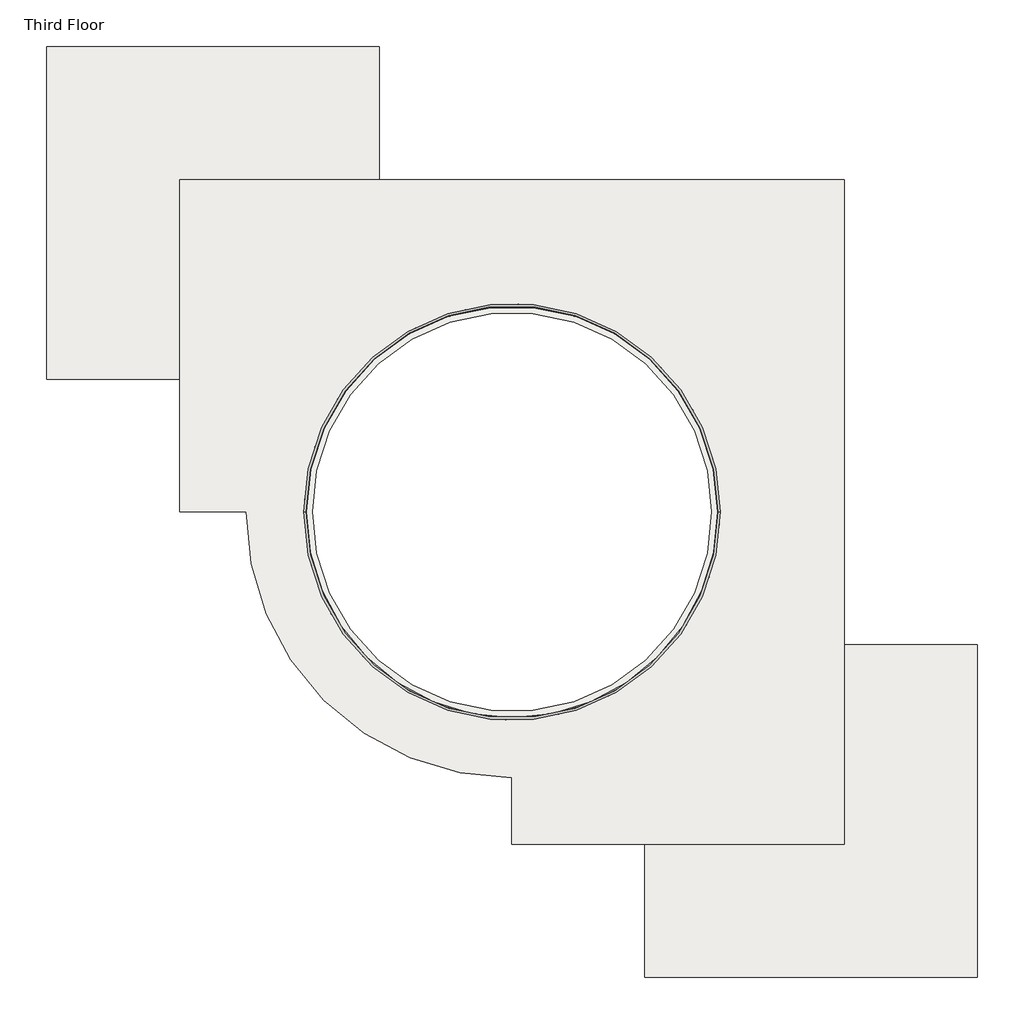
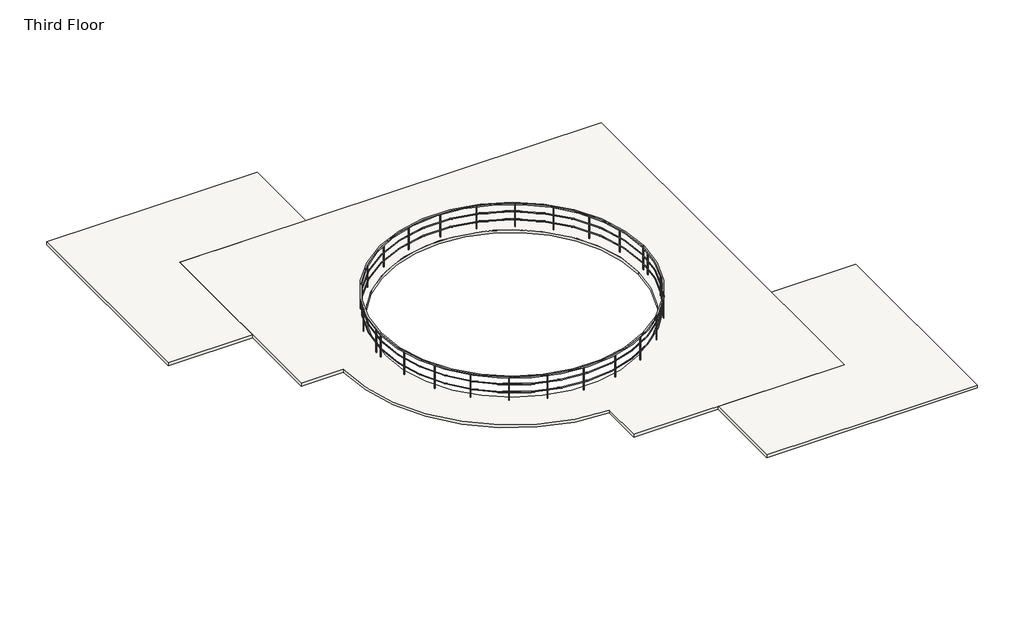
# One storey: 4 slabs, 1 railing.
"""IFC4 building model written with IfcOpenShell, lengths in millimetres."""

import ifcopenshell
import ifcopenshell.guid

model = None  # the IFC model being written
_history = None  # IfcOwnerHistory: only IFC2X3 demands one
_inside = {}  # id of a spatial element -> (the spatial element, [elements in it])
_under = {}  # id of a project, library or spatial element -> (it, [spatial elements below it])
_declared = {}  # id of a project -> (the project, [libraries it declares])
_typed = {}  # id of a type object -> (the type object, [elements of that type])
_made_of = {}  # id of a material, layer set ... -> (it, [elements and type objects made of it])


def new_model(schema):
    """Start an empty IFC model of exactly this schema.

    Asked for "IFC4X3", IfcOpenShell would pick the latest addendum, in which some entities
    have other attributes; the version numbers below select the first issue.
    IFC2X3 requires an IfcOwnerHistory on every rooted entity: one is made here for all.
    """
    global model, _history
    if schema == "IFC4X3":
        model = ifcopenshell.file(schema_version=(4, 3, 0, 0))
    else:
        model = ifcopenshell.file(schema=schema)
    _inside.clear()
    _under.clear()
    _declared.clear()
    _typed.clear()
    _made_of.clear()
    _history = None
    if model.schema == "IFC2X3":
        org = make("IfcOrganization", Name="unknown")
        user = make(
            "IfcPersonAndOrganization",
            ThePerson=make("IfcPerson", FamilyName="unknown"),
            TheOrganization=org,
        )
        app = make(
            "IfcApplication",
            ApplicationDeveloper=org,
            Version="unknown",
            ApplicationFullName="unknown",
            ApplicationIdentifier="unknown",
        )
        _history = make(
            "IfcOwnerHistory",
            OwningUser=user,
            OwningApplication=app,
            ChangeAction="ADDED",
            CreationDate=0,
        )
    return model


def make(cls, **values):
    """One entity of the class cls with the attributes given. An attribute that is None is left unset."""
    return model.create_entity(
        cls, **{name: value for name, value in values.items() if value is not None}
    )


def rooted(cls, **values):
    """An entity with a GlobalId (a new one), such as an element, a storey or a relation."""
    return make(cls, GlobalId=ifcopenshell.guid.new(), OwnerHistory=_history, **values)


def si_unit(unit_type, name, prefix=None):
    """IfcSIUnit, for example si_unit("LENGTHUNIT", "METRE", prefix="MILLI")."""
    return make("IfcSIUnit", UnitType=unit_type, Prefix=prefix, Name=name)


def assignment(units):
    """IfcUnitAssignment: the units of a project."""
    return None if units is None else make("IfcUnitAssignment", Units=units)


def point(xyz):
    """IfcCartesianPoint."""
    return None if xyz is None else make("IfcCartesianPoint", Coordinates=xyz)


def direction(xyz):
    """IfcDirection."""
    return None if xyz is None else make("IfcDirection", DirectionRatios=xyz)


def frame(location, z_axis=None, x_axis=None):
    """IfcAxis2Placement3D, a coordinate frame: its origin and axes. An axis left out is left unset."""
    return make(
        "IfcAxis2Placement3D",
        Location=point(location),
        Axis=direction(z_axis),
        RefDirection=direction(x_axis),
    )


def frame_2d(location, x_axis=None):
    """IfcAxis2Placement2D, a coordinate frame in the plane: its origin and x axis."""
    return make(
        "IfcAxis2Placement2D", Location=point(location), RefDirection=direction(x_axis)
    )


def origin():
    """The frame at (0, 0, 0) with its axes left unset."""
    return frame((0.0, 0.0, 0.0))


def place(relative_to, where):
    """IfcLocalPlacement: puts the frame where relative to a parent placement (None: the world)."""
    return make(
        "IfcLocalPlacement", PlacementRelTo=relative_to, RelativePlacement=where
    )


def context(
    kind, dimensions, precision=None, world=None, true_north=None, identifier=None
):
    """IfcGeometricRepresentationContext, for example the 3D "Model" context."""
    return make(
        "IfcGeometricRepresentationContext",
        ContextIdentifier=identifier,
        ContextType=kind,
        CoordinateSpaceDimension=dimensions,
        Precision=precision,
        WorldCoordinateSystem=world,
        TrueNorth=true_north,
    )


def project(units=None, contexts=None):
    """IfcProject with its units and contexts."""
    return rooted(
        "IfcProject",
        Name="project",
        RepresentationContexts=contexts,
        UnitsInContext=assignment(units),
    )


def spatial(cls, under=None, at=None, **own):
    """A site, building, storey or space (cls), placed at a placement, below another one or the project."""
    s = rooted(cls, ObjectPlacement=at, **own)
    if under is not None:
        _under.setdefault(under.id(), (under, []))[1].append(s)
    return s


def polyline(points):
    """IfcPolyline through the points."""
    return make("IfcPolyline", Points=[point(p) for p in points])


def circle_curve(where, radius):
    """IfcCircle in the frame where."""
    return make("IfcCircle", Position=where, Radius=radius)


def ellipse_curve(where, semi_axis1, semi_axis2):
    """IfcEllipse in the frame where."""
    return make(
        "IfcEllipse", Position=where, SemiAxis1=semi_axis1, SemiAxis2=semi_axis2
    )


def trimmed(basis, trim1, trim2, sense, master):
    """IfcTrimmedCurve: the piece of a basis curve between two trims."""
    return make(
        "IfcTrimmedCurve",
        BasisCurve=basis,
        Trim1=trim1,
        Trim2=trim2,
        SenseAgreement=sense,
        MasterRepresentation=master,
    )


def segment(curve, same_sense, transition):
    """IfcCompositeCurveSegment."""
    return make(
        "IfcCompositeCurveSegment",
        Transition=transition,
        SameSense=same_sense,
        ParentCurve=curve,
    )


def composite_curve(segments, self_intersect=None):
    """IfcCompositeCurve: segments joined end to end."""
    return make("IfcCompositeCurve", Segments=segments, SelfIntersect=self_intersect)


def outline(outer, holes=None, kind="AREA"):
    """IfcArbitraryClosedProfileDef: a profile drawn as a closed curve; with holes, ...WithVoids."""
    if holes is None:
        return make("IfcArbitraryClosedProfileDef", ProfileType=kind, OuterCurve=outer)
    return make(
        "IfcArbitraryProfileDefWithVoids",
        ProfileType=kind,
        OuterCurve=outer,
        InnerCurves=holes,
    )


def extrude(swept, where, along, depth):
    """IfcExtrudedAreaSolid: the profile swept, set in the frame where, extruded along a direction by depth."""
    return make(
        "IfcExtrudedAreaSolid",
        SweptArea=swept,
        Position=where,
        ExtrudedDirection=direction(along),
        Depth=depth,
    )


def shape(context_of_items, identifier, shape_type, items):
    """IfcShapeRepresentation: the items that make up one representation, for example the "Body"."""
    return make(
        "IfcShapeRepresentation",
        ContextOfItems=context_of_items,
        RepresentationIdentifier=identifier,
        RepresentationType=shape_type,
        Items=items,
    )


def source(mapping_origin, context_of_items, identifier, shape_type, items):
    """IfcRepresentationMap: a shape defined once, which mapped items show again and again."""
    return make(
        "IfcRepresentationMap",
        MappingOrigin=mapping_origin,
        MappedRepresentation=shape(context_of_items, identifier, shape_type, items),
    )


def transform(
    local_origin,
    x_axis=None,
    y_axis=None,
    z_axis=None,
    scale=None,
    scale2=None,
    scale3=None,
    uniform=True,
):
    """IfcCartesianTransformationOperator3D, or its non-uniform kind. x_axis, y_axis, z_axis: its Axis1, 2, 3."""
    if uniform:
        return make(
            "IfcCartesianTransformationOperator3D",
            Axis1=direction(x_axis),
            Axis2=direction(y_axis),
            LocalOrigin=point(local_origin),
            Scale=scale,
            Axis3=direction(z_axis),
        )
    return make(
        "IfcCartesianTransformationOperator3DnonUniform",
        Axis1=direction(x_axis),
        Axis2=direction(y_axis),
        LocalOrigin=point(local_origin),
        Scale=scale,
        Axis3=direction(z_axis),
        Scale2=scale2,
        Scale3=scale3,
    )


def mapped(mapping_source, mapping_target):
    """IfcMappedItem: shows the shape of a source again, moved by a transform."""
    return make(
        "IfcMappedItem", MappingSource=mapping_source, MappingTarget=mapping_target
    )


def made_of(thing, what):
    """Note that an element or type object is made of a material, layer set ...; save() writes the relation."""
    if what is not None:
        _made_of.setdefault(what.id(), (what, []))[1].append(thing)
    return thing


def element(
    cls,
    number,
    at=None,
    inside=None,
    cuts=None,
    type_object=None,
    material=None,
    context=None,
    identifier="Body",
    shape_type=None,
    held_by="IfcProductDefinitionShape",
    body=None,
    shapes=None,
    **own,
):
    """One element of the class cls, such as IfcWall. Its Tag is "e" and its number.

    at: its placement. inside: the storey or other place that contains it. cuts: it is an
    opening in that element (IfcRelVoidsElement). A single representation is given by context,
    identifier, shape_type and body (its items); several are given by shapes. held_by: the class
    of the entity that holds the representations. save() writes the other relations.
    """
    e = rooted(cls, Tag="e%d" % number, ObjectPlacement=at, **own)
    if body is not None:
        shapes = [shape(context, identifier, shape_type, body)]
    if shapes is not None:
        e.Representation = make(held_by, Representations=shapes)
    if inside is not None:
        _inside.setdefault(inside.id(), (inside, []))[1].append(e)
    if cuts is not None:
        rooted(
            "IfcRelVoidsElement", RelatingBuildingElement=cuts, RelatedOpeningElement=e
        )
    if type_object is not None:
        _typed.setdefault(type_object.id(), (type_object, []))[1].append(e)
    return made_of(e, material)


def aggregate(whole, parts):
    """IfcRelAggregates: a whole, such as a stair, and the parts it consists of."""
    return rooted("IfcRelAggregates", RelatingObject=whole, RelatedObjects=parts)


def save(model, path):
    """Write the relations noted so far, then the file.

    IfcRelAggregates (storeys below a building ...), IfcRelContainedInSpatialStructure (elements
    in a storey), IfcRelDefinesByType, IfcRelAssociatesMaterial and IfcRelDeclares: one each for
    every whole, place, type object, material and project.
    """
    for whole, parts in _under.values():
        aggregate(whole, parts)
    for where, things in _inside.values():
        rooted(
            "IfcRelContainedInSpatialStructure",
            RelatedElements=things,
            RelatingStructure=where,
        )
    for kind, things in _typed.values():
        rooted("IfcRelDefinesByType", RelatedObjects=things, RelatingType=kind)
    for what, things in _made_of.values():
        rooted("IfcRelAssociatesMaterial", RelatedObjects=things, RelatingMaterial=what)
    for by, libraries in _declared.values():
        rooted("IfcRelDeclares", RelatingContext=by, RelatedDefinitions=libraries)
    model.write(path)


def plane_surface(at):
    """IfcPlane: the flat surface through the origin of the frame at, square to its z axis."""
    return make("IfcPlane", Position=at)


def cylinder_surface(at, radius):
    """IfcCylindricalSurface: all points at the distance radius from the z axis of the frame at."""
    return make("IfcCylindricalSurface", Position=at, Radius=radius)


def revolved_surface(curve, axis_point, axis_direction):
    """IfcSurfaceOfRevolution: the curve turned about the line through axis_point along axis_direction."""
    return make(
        "IfcSurfaceOfRevolution",
        SweptCurve=make("IfcArbitraryOpenProfileDef", ProfileType="CURVE", Curve=curve),
        AxisPosition=make("IfcAxis1Placement", Location=point(axis_point), Axis=direction(axis_direction)),
    )


def advanced_brep(points, edges, surfaces, faces):
    """IfcAdvancedBrep: a solid bounded by faces that lie on surfaces and meet in shared edges.

    An edge is (start, end): straight between two places in points (the first is 0);
    or (start, end, curve); or (start, end, curve, False) where it runs against its curve.
    A face is (place in surfaces, loops), or (place, loops, False) where it looks against
    its surface's normal. A loop lists edges by number (the first is 1), with a minus sign
    where the edge is run from its end to its start. The first loop is the outer one.
    """
    corners = [point(p) for p in points]
    vertices = [make("IfcVertexPoint", VertexGeometry=c) for c in corners]
    made = []
    for start, end, *more in edges:
        made.append(
            make(
                "IfcEdgeCurve",
                EdgeStart=vertices[start],
                EdgeEnd=vertices[end],
                EdgeGeometry=more[0] if more else make("IfcPolyline", Points=[corners[start], corners[end]]),
                SameSense=more[1] if len(more) > 1 else True,
            )
        )
    hull = []
    for where, loops, *sense in faces:
        bounds = []
        for j, loop in enumerate(loops):
            ring = [make("IfcOrientedEdge", EdgeElement=made[abs(k) - 1], Orientation=k > 0) for k in loop]
            bounds.append(
                make(
                    "IfcFaceOuterBound" if j == 0 else "IfcFaceBound",
                    Bound=make("IfcEdgeLoop", EdgeList=ring),
                    Orientation=True,
                )
            )
        hull.append(make("IfcAdvancedFace", Bounds=bounds, FaceSurface=surfaces[where], SameSense=sense[0] if sense else True))
    return make("IfcAdvancedBrep", Outer=make("IfcClosedShell", CfsFaces=hull))


def handrail_rectangular_c49794a6(model_context):
    return source(origin(), model_context, "Body", "SolidModel", [
        advanced_brep(
        [(-7195.5056157, -685.9860776, 7010.4), (2253.2943843, -685.9860776, 7010.4), (2304.0943843, -685.9860776, 7010.4), (-7246.3056157, -685.9860776, 7010.4), (-7195.5056157, -685.9860776, 6959.6), (2253.2943843, -685.9860776, 6959.6), (-7246.3056157, -685.9860776, 6959.6), (2304.0943843, -685.9860776, 6959.6)],
        [
            (0, 1, circle_curve(frame((-2471.1056157, -685.9860776, 7010.4), z_axis=(0.0, 0.0, -1.0), x_axis=(1.0, 0.0, 0.0)), 4724.4)),
            (1, 2),
            (2, 3, circle_curve(frame((-2471.1056157, -685.9860776, 7010.4), z_axis=(0.0, 0.0, 1.0), x_axis=(1.0, 0.0, 0.0)), 4775.2)),
            (3, 0),
            (4, 5, circle_curve(frame((-2471.1056157, -685.9860776, 6959.6), z_axis=(0.0, 0.0, -1.0), x_axis=(1.0, 0.0, 0.0)), 4724.4)),
            (5, 1),
            (0, 4),
            (6, 7, circle_curve(frame((-2471.1056157, -685.9860776, 6959.6), z_axis=(0.0, 0.0, -1.0), x_axis=(1.0, 0.0, 0.0)), 4775.2)),
            (7, 5),
            (4, 6),
            (2, 7),
            (6, 3),
            (1, 0, circle_curve(frame((-2471.1056157, -685.9860776, 7010.4), z_axis=(0.0, 0.0, -1.0), x_axis=(-1.0, 0.0, 0.0)), 4724.4)),
            (3, 2, circle_curve(frame((-2471.1056157, -685.9860776, 7010.4), z_axis=(0.0, 0.0, 1.0), x_axis=(-1.0, 0.0, 0.0)), 4775.2)),
            (5, 4, circle_curve(frame((-2471.1056157, -685.9860776, 6959.6), z_axis=(0.0, 0.0, -1.0), x_axis=(-1.0, 0.0, 0.0)), 4724.4)),
            (7, 6, circle_curve(frame((-2471.1056157, -685.9860776, 6959.6), z_axis=(0.0, 0.0, -1.0), x_axis=(-1.0, 0.0, 0.0)), 4775.2)),
        ],
        [
            plane_surface(frame((-2471.1056157, -685.9860776, 7010.4), z_axis=(0.0, 0.0, 1.0), x_axis=(1.0, 0.0, 0.0))),
            revolved_surface(polyline([(2253.2943843, -685.9860776, 7010.4), (2253.2943843, -685.9860776, 6959.6)]), (-2471.1056157, -685.9860776, 7010.4), (0.0, 0.0, 1.0)),
            plane_surface(frame((-2471.1056157, -685.9860776, 6959.6), z_axis=(0.0, 0.0, -1.0), x_axis=(1.0, 0.0, 0.0))),
            cylinder_surface(frame((-2471.1056157, -685.9860776, 7010.4), z_axis=(0.0, 0.0, 1.0), x_axis=(1.0, 0.0, 0.0)), 4775.2),
            plane_surface(frame((-2471.1056157, -685.9860776, 7010.4), z_axis=(0.0, 0.0, 1.0), x_axis=(-1.0, 0.0, 0.0))),
            revolved_surface(polyline([(-7195.5056157, -685.9860776, 7010.4), (-7195.5056157, -685.9860776, 6959.6)]), (-2471.1056157, -685.9860776, 7010.4), (0.0, 0.0, 1.0)),
            plane_surface(frame((-2471.1056157, -685.9860776, 6959.6), z_axis=(0.0, 0.0, -1.0), x_axis=(-1.0, 0.0, 0.0))),
            cylinder_surface(frame((-2471.1056157, -685.9860776, 7010.4), z_axis=(0.0, 0.0, 1.0), x_axis=(-1.0, 0.0, 0.0)), 4775.2),
        ],
        [
            (0, [[1, 2, 3, 4]]),
            (1, [[5, 6, -1, 7]]),
            (2, [[8, 9, -5, 10]]),
            (3, [[-3, 11, -8, 12]]),
            (4, [[13, -4, 14, -2]]),
            (5, [[15, -7, -13, -6]]),
            (6, [[16, -10, -15, -9]]),
            (7, [[-14, -12, -16, -11]]),
        ],
    ),
        advanced_brep(
        [(-7208.2056157, -685.9860776, 6388.1), (2265.9943843, -685.9860776, 6388.1), (2240.5943843, -685.9860776, 6388.1), (-7182.8056157, -685.9860776, 6388.1)],
        [
            (0, 1, circle_curve(frame((-2471.1056157, -685.9860776, 6388.1), z_axis=(0.0, 0.0, -1.0), x_axis=(1.0, 0.0, 0.0)), 4737.1)),
            (1, 2, circle_curve(frame((2253.2943843, -685.9860776, 6388.1), z_axis=(0.0, 1.0, 0.0), x_axis=(1.0, 0.0, 0.0)), 12.7)),
            (2, 3, circle_curve(frame((-2471.1056157, -685.9860776, 6388.1), z_axis=(0.0, 0.0, 1.0), x_axis=(1.0, 0.0, 0.0)), 4711.7)),
            (3, 0, circle_curve(frame((-7195.5056157, -685.9860776, 6388.1), z_axis=(0.0, 1.0, 0.0), x_axis=(-1.0, 0.0, 0.0)), 12.7)),
            (2, 1, circle_curve(frame((2253.2943843, -685.9860776, 6388.1), z_axis=(0.0, 1.0, 0.0), x_axis=(1.0, 0.0, 0.0)), 12.7)),
            (0, 3, circle_curve(frame((-7195.5056157, -685.9860776, 6388.1), z_axis=(0.0, 1.0, 0.0), x_axis=(-1.0, 0.0, 0.0)), 12.7)),
            (1, 0, circle_curve(frame((-2471.1056157, -685.9860776, 6388.1), z_axis=(0.0, 0.0, -1.0), x_axis=(-1.0, 0.0, 0.0)), 4737.1)),
            (3, 2, circle_curve(frame((-2471.1056157, -685.9860776, 6388.1), z_axis=(0.0, 0.0, 1.0), x_axis=(-1.0, 0.0, 0.0)), 4711.7)),
        ],
        [
            revolved_surface(trimmed(ellipse_curve(frame((2253.2943843, -685.9860776, 6388.1), z_axis=(0.0, -1.0, 0.0), x_axis=(1.0, 0.0, 0.0)), 12.7, 12.7), [point((2240.5943843, -685.9860776, 6388.1))], [point((2265.9943843, -685.9860776, 6388.1))], True, "CARTESIAN"), (-2471.1056157, -685.9860776, 6400.8), (0.0, 0.0, 1.0)),
            revolved_surface(trimmed(ellipse_curve(frame((2253.2943843, -685.9860776, 6388.1), z_axis=(0.0, -1.0, 0.0), x_axis=(1.0, 0.0, 0.0)), 12.7, 12.7), [point((2265.9943843, -685.9860776, 6388.1))], [point((2240.5943843, -685.9860776, 6388.1))], True, "CARTESIAN"), (-2471.1056157, -685.9860776, 6400.8), (0.0, 0.0, 1.0)),
            revolved_surface(trimmed(ellipse_curve(frame((-7195.5056157, -685.9860776, 6388.1), z_axis=(0.0, 1.0, 0.0), x_axis=(-1.0, 0.0, 0.0)), 12.7, 12.7), [point((-7182.8056157, -685.9860776, 6388.1))], [point((-7208.2056157, -685.9860776, 6388.1))], True, "CARTESIAN"), (-2471.1056157, -685.9860776, 6400.8), (0.0, 0.0, 1.0)),
            revolved_surface(trimmed(ellipse_curve(frame((-7195.5056157, -685.9860776, 6388.1), z_axis=(0.0, 1.0, 0.0), x_axis=(-1.0, 0.0, 0.0)), 12.7, 12.7), [point((-7208.2056157, -685.9860776, 6388.1))], [point((-7182.8056157, -685.9860776, 6388.1))], True, "CARTESIAN"), (-2471.1056157, -685.9860776, 6400.8), (0.0, 0.0, 1.0)),
        ],
        [
            (0, [[1, 2, 3, 4]]),
            (1, [[-3, 5, -1, 6]]),
            (2, [[7, -4, 8, -2]]),
            (3, [[-8, -6, -7, -5]]),
        ],
    ),
        advanced_brep(
        [(-7208.2056157, -685.9860776, 6692.9), (2265.9943843, -685.9860776, 6692.9), (2240.5943843, -685.9860776, 6692.9), (-7182.8056157, -685.9860776, 6692.9)],
        [
            (0, 1, circle_curve(frame((-2471.1056157, -685.9860776, 6692.9), z_axis=(0.0, 0.0, -1.0), x_axis=(1.0, 0.0, 0.0)), 4737.1)),
            (1, 2, circle_curve(frame((2253.2943843, -685.9860776, 6692.9), z_axis=(0.0, 1.0, 0.0), x_axis=(1.0, 0.0, 0.0)), 12.7)),
            (2, 3, circle_curve(frame((-2471.1056157, -685.9860776, 6692.9), z_axis=(0.0, 0.0, 1.0), x_axis=(1.0, 0.0, 0.0)), 4711.7)),
            (3, 0, circle_curve(frame((-7195.5056157, -685.9860776, 6692.9), z_axis=(0.0, 1.0, 0.0), x_axis=(-1.0, 0.0, 0.0)), 12.7)),
            (2, 1, circle_curve(frame((2253.2943843, -685.9860776, 6692.9), z_axis=(0.0, 1.0, 0.0), x_axis=(1.0, 0.0, 0.0)), 12.7)),
            (0, 3, circle_curve(frame((-7195.5056157, -685.9860776, 6692.9), z_axis=(0.0, 1.0, 0.0), x_axis=(-1.0, 0.0, 0.0)), 12.7)),
            (1, 0, circle_curve(frame((-2471.1056157, -685.9860776, 6692.9), z_axis=(0.0, 0.0, -1.0), x_axis=(-1.0, 0.0, 0.0)), 4737.1)),
            (3, 2, circle_curve(frame((-2471.1056157, -685.9860776, 6692.9), z_axis=(0.0, 0.0, 1.0), x_axis=(-1.0, 0.0, 0.0)), 4711.7)),
        ],
        [
            revolved_surface(trimmed(ellipse_curve(frame((2253.2943843, -685.9860776, 6692.9), z_axis=(0.0, -1.0, 0.0), x_axis=(1.0, 0.0, 0.0)), 12.7, 12.7), [point((2240.5943843, -685.9860776, 6692.9))], [point((2265.9943843, -685.9860776, 6692.9))], True, "CARTESIAN"), (-2471.1056157, -685.9860776, 6705.6), (0.0, 0.0, 1.0)),
            revolved_surface(trimmed(ellipse_curve(frame((2253.2943843, -685.9860776, 6692.9), z_axis=(0.0, -1.0, 0.0), x_axis=(1.0, 0.0, 0.0)), 12.7, 12.7), [point((2265.9943843, -685.9860776, 6692.9))], [point((2240.5943843, -685.9860776, 6692.9))], True, "CARTESIAN"), (-2471.1056157, -685.9860776, 6705.6), (0.0, 0.0, 1.0)),
            revolved_surface(trimmed(ellipse_curve(frame((-7195.5056157, -685.9860776, 6692.9), z_axis=(0.0, 1.0, 0.0), x_axis=(-1.0, 0.0, 0.0)), 12.7, 12.7), [point((-7182.8056157, -685.9860776, 6692.9))], [point((-7208.2056157, -685.9860776, 6692.9))], True, "CARTESIAN"), (-2471.1056157, -685.9860776, 6705.6), (0.0, 0.0, 1.0)),
            revolved_surface(trimmed(ellipse_curve(frame((-7195.5056157, -685.9860776, 6692.9), z_axis=(0.0, 1.0, 0.0), x_axis=(-1.0, 0.0, 0.0)), 12.7, 12.7), [point((-7208.2056157, -685.9860776, 6692.9))], [point((-7182.8056157, -685.9860776, 6692.9))], True, "CARTESIAN"), (-2471.1056157, -685.9860776, 6705.6), (0.0, 0.0, 1.0)),
        ],
        [
            (0, [[1, 2, 3, 4]]),
            (1, [[-3, 5, -1, 6]]),
            (2, [[7, -4, 8, -2]]),
            (3, [[-8, -6, -7, -5]]),
        ],
    ),
        extrude(outline(polyline([(2278.6729092, -987.4311737), (2259.6587819, -986.2626426), (2260.8273131, -967.2485153), (2279.8414403, -968.4170465), (2278.6729092, -987.4311737)])), frame((0.0, 0.0, 6096.0), z_axis=(0.0, 0.0, 1.0), x_axis=(1.0, 0.0, 0.0)), (0.0, 0.0, 1.0), 863.6),
        extrude(outline(polyline([(2046.526604, -2183.4052938), (2028.4320972, -2177.4478343), (2034.3895567, -2159.3533275), (2052.4840635, -2165.310787), (2046.526604, -2183.4052938)])), frame((0.0, 0.0, 6096.0), z_axis=(0.0, 0.0, 1.0), x_axis=(1.0, 0.0, 0.0)), (0.0, 0.0, 1.0), 863.6),
        extrude(outline(polyline([(1518.3580893, -3281.2595752), (1502.368863, -3270.9035556), (1512.7248826, -3254.9143293), (1528.7141089, -3265.2703488), (1518.3580893, -3281.2595752)])), frame((0.0, 0.0, 6096.0), z_axis=(0.0, 0.0, 1.0), x_axis=(1.0, 0.0, 0.0)), (0.0, 0.0, 1.0), 863.6),
        extrude(outline(polyline([(728.7761168, -4209.0560569), (715.9398804, -4194.9800655), (730.0158718, -4182.1438291), (742.8521082, -4196.2198205), (728.7761168, -4209.0560569)])), frame((0.0, 0.0, 6096.0), z_axis=(0.0, 0.0, 1.0), x_axis=(1.0, 0.0, 0.0)), (0.0, 0.0, 1.0), 863.6),
        extrude(outline(polyline([(-270.4811933, -4905.9999795), (-279.323333, -4889.1263591), (-262.4497126, -4880.2842194), (-253.6075729, -4897.1578398), (-270.4811933, -4905.9999795)])), frame((0.0, 0.0, 6096.0), z_axis=(0.0, 0.0, 1.0), x_axis=(1.0, 0.0, 0.0)), (0.0, 0.0, 1.0), 863.6),
        extrude(outline(polyline([(-1413.9365416, -5326.4234201), (-1418.2051948, -5307.857831), (-1399.6396057, -5303.5891777), (-1395.3709525, -5322.1547669), (-1413.9365416, -5326.4234201)])), frame((0.0, 0.0, 6096.0), z_axis=(0.0, 0.0, 1.0), x_axis=(1.0, 0.0, 0.0)), (0.0, 0.0, 1.0), 863.6),
        extrude(outline(polyline([(-2626.6639134, -5442.7777271), (-2626.0793725, -5423.7366974), (-2607.0383428, -5424.3212383), (-2607.6228837, -5443.362268), (-2626.6639134, -5442.7777271)])), frame((0.0, 0.0, 6096.0), z_axis=(0.0, 0.0, 1.0), x_axis=(1.0, 0.0, 0.0)), (0.0, 0.0, 1.0), 863.6),
        extrude(outline(polyline([(-3829.1981776, -5247.4386724), (-3823.7987453, -5229.1698839), (-3805.5299569, -5234.5693162), (-3810.9293891, -5252.8381047), (-3829.1981776, -5247.4386724)])), frame((0.0, 0.0, 6096.0), z_axis=(0.0, 0.0, 1.0), x_axis=(1.0, 0.0, 0.0)), (0.0, 0.0, 1.0), 863.6),
        extrude(outline(polyline([(-4942.7421165, -4753.2060359), (-4932.8815958, -4736.9065687), (-4916.5821286, -4746.7670894), (-4926.4426493, -4763.0665566), (-4942.7421165, -4753.2060359)])), frame((0.0, 0.0, 6096.0), z_axis=(0.0, 0.0, 1.0), x_axis=(1.0, 0.0, 0.0)), (0.0, 0.0, 1.0), 863.6),
        extrude(outline(polyline([(-5894.3296893, -3992.4648879), (-5880.6542003, -3979.2027802), (-5867.3920926, -3992.8782693), (-5881.0675817, -4006.1403769), (-5894.3296893, -3992.4648879)])), frame((0.0, 0.0, 6096.0), z_axis=(0.0, 0.0, 1.0), x_axis=(1.0, 0.0, 0.0)), (0.0, 0.0, 1.0), 863.6),
        extrude(outline(polyline([(-6621.6072023, -3015.063526), (-6605.0128445, -3005.7077904), (-6595.6571088, -3022.3021481), (-6612.2514666, -3031.6578838), (-6621.6072023, -3015.063526)])), frame((0.0, 0.0, 6096.0), z_axis=(0.0, 0.0, 1.0), x_axis=(1.0, 0.0, 0.0)), (0.0, 0.0, 1.0), 863.6),
        extrude(outline(polyline([(-7076.9190947, -1885.0471175), (-7058.4932296, -1880.2107974), (-7053.6569095, -1898.6366626), (-7072.0827746, -1903.4729827), (-7076.9190947, -1885.0471175)])), frame((0.0, 0.0, 6096.0), z_axis=(0.0, 0.0, 1.0), x_axis=(1.0, 0.0, 0.0)), (0.0, 0.0, 1.0), 863.6),
        extrude(outline(polyline([(-7220.8841406, -384.5409814), (-7201.8700133, -385.7095126), (-7203.0385445, -404.7236398), (-7222.0526717, -403.5551087), (-7220.8841406, -384.5409814)])), frame((0.0, 0.0, 6096.0), z_axis=(0.0, 0.0, 1.0), x_axis=(1.0, 0.0, 0.0)), (0.0, 0.0, 1.0), 863.6),
        extrude(outline(polyline([(-6988.7378354, 811.4331387), (-6970.6433286, 805.4756792), (-6976.600788, 787.3811724), (-6994.6952948, 793.3386319), (-6988.7378354, 811.4331387)])), frame((0.0, 0.0, 6096.0), z_axis=(0.0, 0.0, 1.0), x_axis=(1.0, 0.0, 0.0)), (0.0, 0.0, 1.0), 863.6),
        extrude(outline(polyline([(-6460.5693207, 1909.28742), (-6444.5800944, 1898.9314005), (-6454.936114, 1882.9421741), (-6470.9253403, 1893.2981937), (-6460.5693207, 1909.28742)])), frame((0.0, 0.0, 6096.0), z_axis=(0.0, 0.0, 1.0), x_axis=(1.0, 0.0, 0.0)), (0.0, 0.0, 1.0), 863.6),
        extrude(outline(polyline([(-5670.9873482, 2837.0839018), (-5658.1511118, 2823.0079103), (-5672.2271032, 2810.1716739), (-5685.0633396, 2824.2476654), (-5670.9873482, 2837.0839018)])), frame((0.0, 0.0, 6096.0), z_axis=(0.0, 0.0, 1.0), x_axis=(1.0, 0.0, 0.0)), (0.0, 0.0, 1.0), 863.6),
        extrude(outline(polyline([(-4671.7300381, 3534.0278244), (-4662.8878984, 3517.154204), (-4679.7615188, 3508.3120643), (-4688.6036585, 3525.1856847), (-4671.7300381, 3534.0278244)])), frame((0.0, 0.0, 6096.0), z_axis=(0.0, 0.0, 1.0), x_axis=(1.0, 0.0, 0.0)), (0.0, 0.0, 1.0), 863.6),
        extrude(outline(polyline([(-3528.2746898, 3954.451265), (-3524.0060366, 3935.8856758), (-3542.5716257, 3931.6170226), (-3546.8402789, 3950.1826117), (-3528.2746898, 3954.451265)])), frame((0.0, 0.0, 6096.0), z_axis=(0.0, 0.0, 1.0), x_axis=(1.0, 0.0, 0.0)), (0.0, 0.0, 1.0), 863.6),
        extrude(outline(polyline([(-2315.547318, 4070.805572), (-2316.1318589, 4051.7645423), (-2335.1728886, 4052.3490831), (-2334.5883477, 4071.3901128), (-2315.547318, 4070.805572)])), frame((0.0, 0.0, 6096.0), z_axis=(0.0, 0.0, 1.0), x_axis=(1.0, 0.0, 0.0)), (0.0, 0.0, 1.0), 863.6),
        extrude(outline(polyline([(-1113.0130538, 3875.4665172), (-1118.4124861, 3857.1977288), (-1136.6812745, 3862.5971611), (-1131.2818422, 3880.8659495), (-1113.0130538, 3875.4665172)])), frame((0.0, 0.0, 6096.0), z_axis=(0.0, 0.0, 1.0), x_axis=(1.0, 0.0, 0.0)), (0.0, 0.0, 1.0), 863.6),
        extrude(outline(polyline([(0.5308851, 3381.2338807), (-9.3296356, 3364.9344135), (-25.6291028, 3374.7949343), (-15.7685821, 3391.0944015), (0.5308851, 3381.2338807)])), frame((0.0, 0.0, 6096.0), z_axis=(0.0, 0.0, 1.0), x_axis=(1.0, 0.0, 0.0)), (0.0, 0.0, 1.0), 863.6),
        extrude(outline(polyline([(952.1184579, 2620.4927327), (938.4429689, 2607.2306251), (925.1808612, 2620.9061142), (938.8563503, 2634.1682218), (952.1184579, 2620.4927327)])), frame((0.0, 0.0, 6096.0), z_axis=(0.0, 0.0, 1.0), x_axis=(1.0, 0.0, 0.0)), (0.0, 0.0, 1.0), 863.6),
        extrude(outline(polyline([(1679.3959709, 1643.0913709), (1662.8016131, 1633.7356352), (1653.4458775, 1650.329993), (1670.0402352, 1659.6857287), (1679.3959709, 1643.0913709)])), frame((0.0, 0.0, 6096.0), z_axis=(0.0, 0.0, 1.0), x_axis=(1.0, 0.0, 0.0)), (0.0, 0.0, 1.0), 863.6),
        extrude(outline(polyline([(2134.7078634, 513.0749623), (2116.2819982, 508.2386422), (2111.4456781, 526.6645074), (2129.8715432, 531.5008275), (2134.7078634, 513.0749623)])), frame((0.0, 0.0, 6096.0), z_axis=(0.0, 0.0, 1.0), x_axis=(1.0, 0.0, 0.0)), (0.0, 0.0, 1.0), 863.6),
        extrude(outline(polyline([(2288.2193843, -695.5110776), (2269.1693843, -695.5110776), (2269.1693843, -676.4610776), (2288.2193843, -676.4610776), (2288.2193843, -695.5110776)])), frame((0.0, 0.0, 6096.0), z_axis=(0.0, 0.0, 1.0), x_axis=(1.0, 0.0, 0.0)), (0.0, 0.0, 1.0), 863.6),
        extrude(outline(polyline([(-7230.4306157, -676.4610776), (-7211.3806157, -676.4610776), (-7211.3806157, -695.5110776), (-7230.4306157, -695.5110776), (-7230.4306157, -676.4610776)])), frame((0.0, 0.0, 6096.0), z_axis=(0.0, 0.0, 1.0), x_axis=(1.0, 0.0, 0.0)), (0.0, 0.0, 1.0), 863.6),
    ])


model = new_model("IFC4")

# Units and contexts
model_context = context("Model", 3, world=origin())
ifc_project = project(units=[si_unit("LENGTHUNIT", "METRE", prefix="MILLI")], contexts=[model_context])

# Site, building, storey
site = spatial("IfcSite", under=ifc_project)
building = spatial("IfcBuilding", under=site)
storey = spatial("IfcBuildingStorey", under=building, Name="Third Floor", Elevation=6096.0)

# Railing
placement = place(None, origin())
handrail_rectangular_shape = handrail_rectangular_c49794a6(model_context)
element("IfcRailing", 1, ObjectType="Handrail - Rectangular", at=placement, inside=storey, context=model_context, shape_type="MappedRepresentation", body=[
    mapped(handrail_rectangular_shape, transform((0.0, 0.0, 0.0), x_axis=(1.0, 0.0, 0.0), y_axis=(0.0, 1.0, 0.0), z_axis=(0.0, 0.0, 1.0))),
])

# Slabs
element("IfcSlab", 2, ObjectType="LW Concrete on Metal Deck", at=placement, inside=storey, context=model_context, shape_type="SweptSolid", body=[
    extrude(outline(composite_curve([segment(polyline([(5148.8943843, 6934.0139224), (5148.8943843, -8305.9860776), (-2471.1056157, -8305.9860776), (-2471.1056157, -6781.9860776)]), True, "CONTINUOUS"), segment(trimmed(circle_curve(frame_2d((-2471.1056157, -685.9860776)), 6096.0), [point((-2471.1056157, -6781.9860776))], [point((-8567.1056157, -685.9860776))], False, "CARTESIAN"), True, "CONTINUOUS"), segment(polyline([(-8567.1056157, -685.9860776), (-10091.1056157, -685.9860776), (-10091.1056157, 6934.0139224), (5148.8943843, 6934.0139224)]), True, "CONTINUOUS")], self_intersect=False), holes=[composite_curve([segment(trimmed(circle_curve(frame_2d((-2471.1056157, -685.9860776)), 4572.0), [point((2100.8943843, -685.9860776))], [point((-7043.1056157, -685.9860776))], True, "CARTESIAN"), True, "CONTINUOUS"), segment(trimmed(circle_curve(frame_2d((-2471.1056157, -685.9860776)), 4572.0), [point((-7043.1056157, -685.9860776))], [point((2100.8943843, -685.9860776))], True, "CARTESIAN"), True, "CONTINUOUS")], self_intersect=False)]), frame((0.0, 0.0, 5991.225), z_axis=(0.0, 0.0, 1.0), x_axis=(1.0, 0.0, 0.0)), (0.0, 0.0, 1.0), 104.775),
])
element("IfcSlab", 3, ObjectType="LW Concrete on Metal Deck", at=placement, inside=storey, context=model_context, shape_type="SweptSolid", body=[
    extrude(outline(polyline([(8196.8943843, -3733.9860776), (8196.8943843, -11353.9860776), (576.8943843, -11353.9860776), (576.8943843, -8305.9860776), (5148.8943843, -8305.9860776), (5148.8943843, -3733.9860776), (8196.8943843, -3733.9860776)])), frame((0.0, 0.0, 5991.225), z_axis=(0.0, 0.0, 1.0), x_axis=(1.0, 0.0, 0.0)), (0.0, 0.0, 1.0), 104.775),
    extrude(outline(polyline([(-5519.1056157, 9982.0139224), (-5519.1056157, 6934.0139224), (-10091.1056157, 6934.0139224), (-10091.1056157, 2362.0139224), (-13139.1056157, 2362.0139224), (-13139.1056157, 9982.0139224), (-5519.1056157, 9982.0139224)])), frame((0.0, 0.0, 5991.225), z_axis=(0.0, 0.0, 1.0), x_axis=(1.0, 0.0, 0.0)), (0.0, 0.0, 1.0), 104.775),
])
element("IfcSlab", 4, ObjectType="LW Concrete on Metal Deck", at=placement, inside=storey, context=model_context, shape_type="SweptSolid", body=[
    extrude(outline(composite_curve([segment(polyline([(5148.8943843, 6934.0139224), (5148.8943843, -8305.9860776), (-2471.1056157, -8305.9860776), (-2471.1056157, -6781.9860776)]), True, "CONTINUOUS"), segment(trimmed(circle_curve(frame_2d((-2471.1056157, -685.9860776)), 6096.0), [point((-2471.1056157, -6781.9860776))], [point((-8567.1056157, -685.9860776))], False, "CARTESIAN"), True, "CONTINUOUS"), segment(polyline([(-8567.1056157, -685.9860776), (-10091.1056157, -685.9860776), (-10091.1056157, 6934.0139224), (5148.8943843, 6934.0139224)]), True, "CONTINUOUS")], self_intersect=False), holes=[composite_curve([segment(trimmed(circle_curve(frame_2d((-2471.1056157, -685.9860776)), 4572.0), [point((2100.8943843, -685.9860776))], [point((-7043.1056157, -685.9860776))], True, "CARTESIAN"), True, "CONTINUOUS"), segment(trimmed(circle_curve(frame_2d((-2471.1056157, -685.9860776)), 4572.0), [point((-7043.1056157, -685.9860776))], [point((2100.8943843, -685.9860776))], True, "CARTESIAN"), True, "CONTINUOUS")], self_intersect=False)]), frame((0.0, 0.0, 5991.225), z_axis=(0.0, 0.0, 1.0), x_axis=(1.0, 0.0, 0.0)), (0.0, 0.0, 1.0), 104.775),
])
element("IfcSlab", 5, ObjectType="LW Concrete on Metal Deck", at=placement, inside=storey, context=model_context, shape_type="SweptSolid", body=[
    extrude(outline(polyline([(8196.8943843, -3733.9860776), (8196.8943843, -11353.9860776), (576.8943843, -11353.9860776), (576.8943843, -8305.9860776), (5148.8943843, -8305.9860776), (5148.8943843, -3733.9860776), (8196.8943843, -3733.9860776)])), frame((0.0, 0.0, 5991.225), z_axis=(0.0, 0.0, 1.0), x_axis=(1.0, 0.0, 0.0)), (0.0, 0.0, 1.0), 104.775),
    extrude(outline(polyline([(-5519.1056157, 9982.0139224), (-5519.1056157, 6934.0139224), (-10091.1056157, 6934.0139224), (-10091.1056157, 2362.0139224), (-13139.1056157, 2362.0139224), (-13139.1056157, 9982.0139224), (-5519.1056157, 9982.0139224)])), frame((0.0, 0.0, 5991.225), z_axis=(0.0, 0.0, 1.0), x_axis=(1.0, 0.0, 0.0)), (0.0, 0.0, 1.0), 104.775),
])

save(model, "model.ifc")
